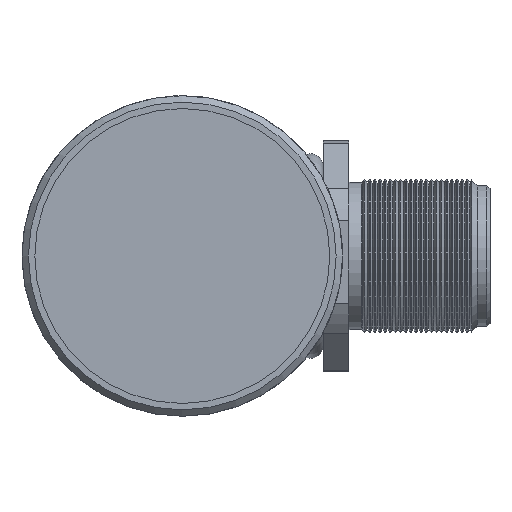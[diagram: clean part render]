
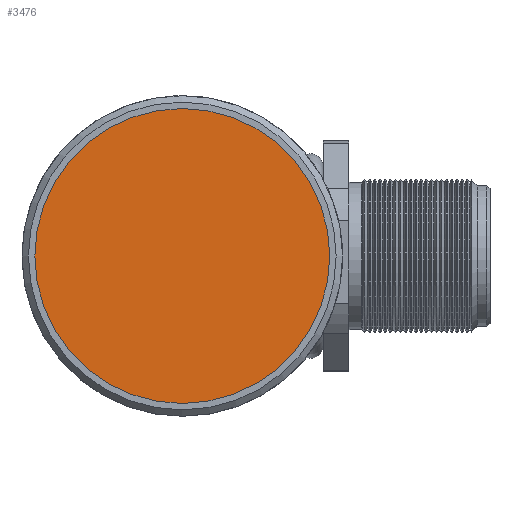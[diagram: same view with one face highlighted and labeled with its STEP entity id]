
A CAD part, left-side view. The second image highlights one B-rep face of the part: STEP entity #3476.
In plain terms, the highlighted planar face has unit normal (-1, 0, 0).
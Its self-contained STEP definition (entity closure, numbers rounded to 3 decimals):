
#837=VERTEX_POINT('',#4905);
#1150=CIRCLE('',#3752,11.5);
#1327=EDGE_CURVE('',#837,#837,#1150,.T.);
#1813=ORIENTED_EDGE('',*,*,#1327,.T.);
#2730=EDGE_LOOP('',(#1813));
#3108=FACE_BOUND('',#2730,.T.);
#3476=ADVANCED_FACE('',(#3108),#7124,.F.);
#3752=AXIS2_PLACEMENT_3D('',#4904,#4134,#4135);
#3753=AXIS2_PLACEMENT_3D('',#4906,#4136,$);
#4134=DIRECTION('',(-1.,0.,0.));
#4135=DIRECTION('',(0.,0.,-11.5));
#4136=DIRECTION('',(1.,0.,0.));
#4904=CARTESIAN_POINT('',(-29.,0.,0.));
#4905=CARTESIAN_POINT('',(-29.,0.,-11.5));
#4906=CARTESIAN_POINT('',(-29.,0.,0.));
#7124=PLANE('',#3753);
